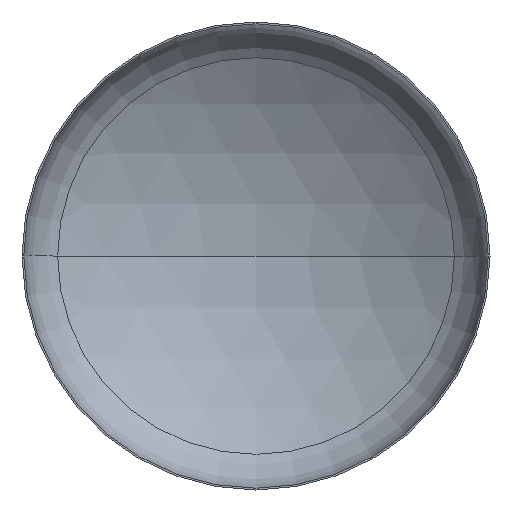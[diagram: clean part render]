
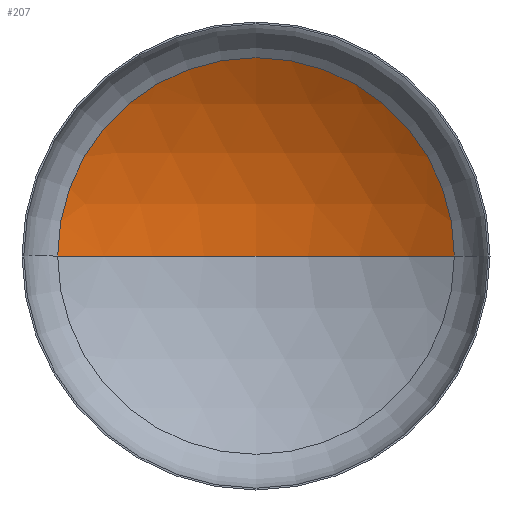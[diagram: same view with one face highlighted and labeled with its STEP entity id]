
A CAD part, front view. The second image highlights one B-rep face of the part: STEP entity #207.
In plain terms, the highlighted spherical face has radius 2080 mm.
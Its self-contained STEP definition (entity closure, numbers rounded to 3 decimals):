
#2 = AXIS2_PLACEMENT_3D ( 'NONE', #249, #373, #77 ) ;
#3 = AXIS2_PLACEMENT_3D ( 'NONE', #318, #226, #149 ) ;
#6 = DIRECTION ( 'NONE',  ( 0., -1., 0. ) ) ;
#17 = AXIS2_PLACEMENT_3D ( 'NONE', #174, #199, #140 ) ;
#22 = AXIS2_PLACEMENT_3D ( 'NONE', #116, #6, #368 ) ;
#39 = CARTESIAN_POINT ( 'NONE',  ( -1101.905, 369.259, 0. ) ) ;
#76 = EDGE_CURVE ( 'NONE', #190, #325, #193, .T. ) ;
#77 = DIRECTION ( 'NONE',  ( 1., 0., 0. ) ) ;
#102 = ORIENTED_EDGE ( 'NONE', *, *, #320, .T. ) ;
#116 = CARTESIAN_POINT ( 'NONE',  ( 0., 369.259, 0. ) ) ;
#140 = DIRECTION ( 'NONE',  ( -1., 0., 0. ) ) ;
#149 = DIRECTION ( 'NONE',  ( -1., 0., 0. ) ) ;
#174 = CARTESIAN_POINT ( 'NONE',  ( 0., -1394.886, 0. ) ) ;
#190 = VERTEX_POINT ( 'NONE', #231 ) ;
#193 = CIRCLE ( 'NONE', #22, 1101.905 ) ;
#199 = DIRECTION ( 'NONE',  ( 0., 0., -1. ) ) ;
#202 = ORIENTED_EDGE ( 'NONE', *, *, #331, .F. ) ;
#207 = ADVANCED_FACE ( 'NONE', ( #245 ), #399, .F. ) ;
#226 = DIRECTION ( 'NONE',  ( 0., 0., -1. ) ) ;
#231 = CARTESIAN_POINT ( 'NONE',  ( 1101.905, 369.259, 0. ) ) ;
#235 = EDGE_LOOP ( 'NONE', ( #202, #102, #277 ) ) ;
#245 = FACE_OUTER_BOUND ( 'NONE', #235, .T. ) ;
#249 = CARTESIAN_POINT ( 'NONE',  ( 0., -1394.886, 0. ) ) ;
#274 = VERTEX_POINT ( 'NONE', #397 ) ;
#277 = ORIENTED_EDGE ( 'NONE', *, *, #76, .T. ) ;
#318 = CARTESIAN_POINT ( 'NONE',  ( 0., -1394.886, 0. ) ) ;
#320 = EDGE_CURVE ( 'NONE', #274, #190, #387, .T. ) ;
#325 = VERTEX_POINT ( 'NONE', #39 ) ;
#331 = EDGE_CURVE ( 'NONE', #274, #325, #366, .T. ) ;
#366 = CIRCLE ( 'NONE', #2, 2080. ) ;
#368 = DIRECTION ( 'NONE',  ( 1., 0., 0. ) ) ;
#373 = DIRECTION ( 'NONE',  ( 0., 0., 1. ) ) ;
#387 = CIRCLE ( 'NONE', #3, 2080. ) ;
#397 = CARTESIAN_POINT ( 'NONE',  ( 0., 685.114, 0. ) ) ;
#399 = SPHERICAL_SURFACE ( 'NONE', #17, 2080. ) ;
